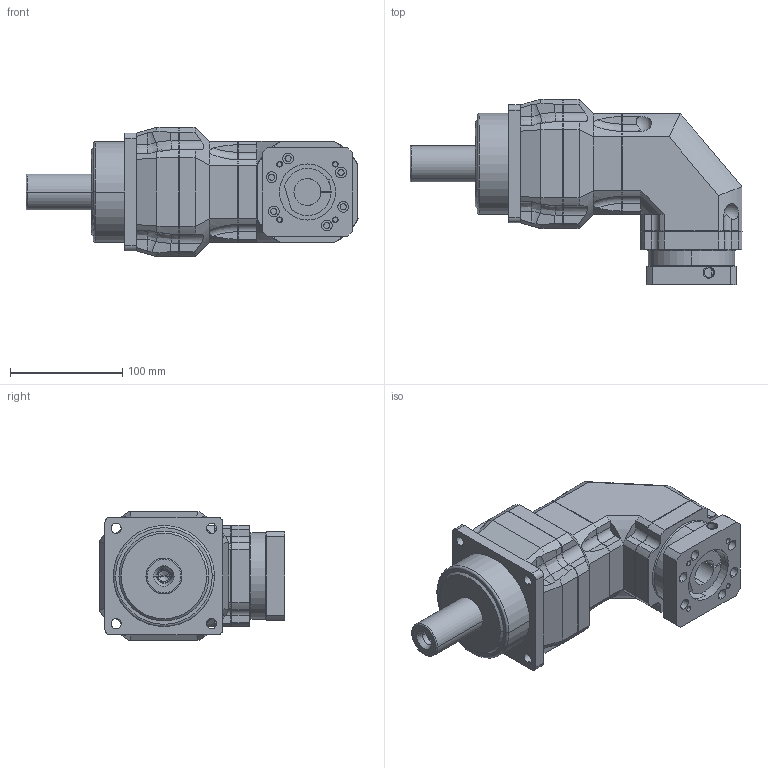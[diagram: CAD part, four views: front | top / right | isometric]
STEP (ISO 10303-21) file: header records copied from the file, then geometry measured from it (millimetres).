
FILE_DESCRIPTION((''),'2;1');
FILE_NAME('AFR1002-P0403300208_ASM','2021-10-20T',('Administrator'),(''),'PRO/ENGINEER BY PARAMETRIC TECHNOLOGY CORPORATION, 2015240','PRO/ENGINEER BY PARAMETRIC TECHNOLOGY CORPORATION, 2015240','');
FILE_SCHEMA(('CONFIG_CONTROL_DESIGN'));
Length unit declared in the file: millimetre
Products named in the file (8): P1301300001_D; P1051300001_D; AB1152-1; AF100; AB-INPUTSHAFT-3; AFR1002_ASM; P0403300208-0024; AFR1002-P0403300208_ASM
Assembly tree (7 placements, depth 3):
  AFR1002-P0403300208_ASM
    AFR1002_ASM
      P1301300001_D
      P1051300001_D
      AB1152-1
      AF100
      AB-INPUTSHAFT-3
    P0403300208-0024
Bounding box: 295.5 x 165 x 115 mm (x, y, z)
Volume: 2199725.1 mm3; surface area: 202958.1 mm2
Topology: 6 solids, 13 shells, 506 faces, 1214 edges, 744 vertices
Faces by surface type: plane 204, cylinder 169, cone 62, bspline 43, torus 24, sphere 4
Entity records: 17457 total; most frequent: CARTESIAN_POINT 5660, DIRECTION 2435, ORIENTED_EDGE 2389, EDGE_CURVE 1209, AXIS2_PLACEMENT_3D 942, VERTEX_POINT 744, EDGE_LOOP 562, VECTOR 551
